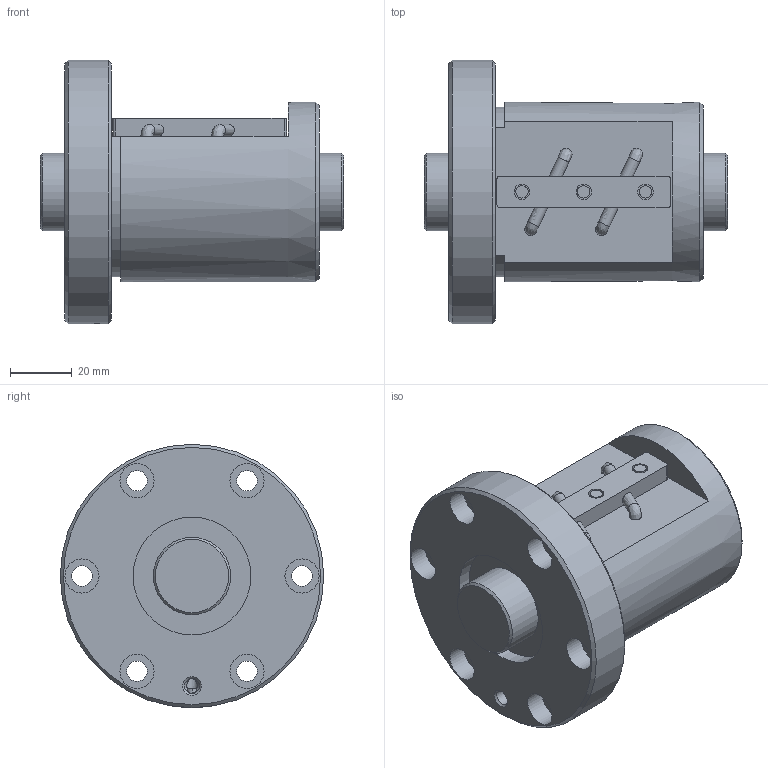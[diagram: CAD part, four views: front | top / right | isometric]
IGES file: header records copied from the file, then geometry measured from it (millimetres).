
Start section: Data from Parasolid IGES Translator 26.0.171, Copyright(c) 2006 Siemens PLM Software. All Rights Reserved.
Global section: file name: BNF2508V-5RRG1+98LC0_000_rev.igs; native system: By Siemens PLM Incorporated; preprocessor: XPlus GENERIC/IGES 26.0.171; author: Noname; organization: Noname; date: 20240806.072940; units: millimetre
Bounding box: 98 x 85 x 85 mm (x, y, z)
Surface area: 46004.8 mm2 (no closed solid volume)
Topology: 0 solids, 0 shells, 79 faces, 372 edges, 338 vertices
Faces by surface type: revolution 50, extrusion 29
